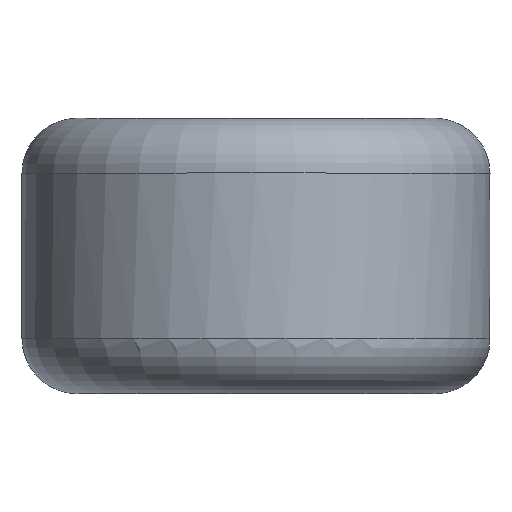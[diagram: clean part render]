
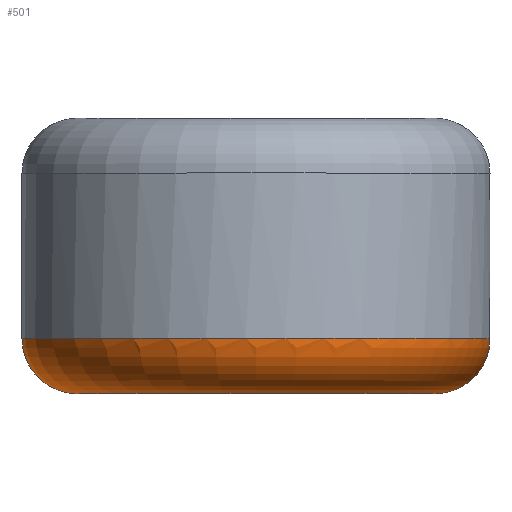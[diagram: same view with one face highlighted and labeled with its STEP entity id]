
A CAD part, top view. The second image highlights one B-rep face of the part: STEP entity #501.
In plain terms, the highlighted toroidal (fillet/blend) face has major radius 3.25 mm and minor radius 1 mm.
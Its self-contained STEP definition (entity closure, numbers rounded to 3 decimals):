
#82=FACE_OUTER_BOUND('',#112,.T.);
#112=EDGE_LOOP('',(#413,#414,#415,#416,#417,#418,#419,#420));
#151=CIRCLE('',#570,3.25);
#152=CIRCLE('',#571,1.);
#153=CIRCLE('',#572,4.25);
#154=CIRCLE('',#573,4.25);
#155=CIRCLE('',#574,4.25);
#156=CIRCLE('',#575,3.25);
#191=B_SPLINE_CURVE_WITH_KNOTS('',3,(#1915,#1916,#1917,#1918,#1919,#1920,
#1921,#1922,#1923,#1924,#1925),.UNSPECIFIED.,.F.,.F.,(4,1,1,1,1,1,2,4),
(-0.098,-0.044,-0.026,-0.017,
-0.013,-0.01,-0.008,0.),
 .UNSPECIFIED.);
#225=VERTEX_POINT('',#1661);
#231=VERTEX_POINT('',#1801);
#235=VERTEX_POINT('',#2220);
#236=VERTEX_POINT('',#2221);
#237=VERTEX_POINT('',#2223);
#238=VERTEX_POINT('',#2226);
#296=EDGE_CURVE('',#225,#231,#191,.T.);
#301=EDGE_CURVE('',#235,#236,#151,.T.);
#302=EDGE_CURVE('',#236,#237,#152,.T.);
#303=EDGE_CURVE('',#237,#231,#153,.T.);
#304=EDGE_CURVE('',#225,#238,#154,.T.);
#305=EDGE_CURVE('',#238,#237,#155,.T.);
#306=EDGE_CURVE('',#236,#235,#156,.T.);
#413=ORIENTED_EDGE('',*,*,#301,.T.);
#414=ORIENTED_EDGE('',*,*,#302,.T.);
#415=ORIENTED_EDGE('',*,*,#303,.T.);
#416=ORIENTED_EDGE('',*,*,#296,.F.);
#417=ORIENTED_EDGE('',*,*,#304,.T.);
#418=ORIENTED_EDGE('',*,*,#305,.T.);
#419=ORIENTED_EDGE('',*,*,#302,.F.);
#420=ORIENTED_EDGE('',*,*,#306,.T.);
#483=TOROIDAL_SURFACE('',#569,3.25,1.);
#501=ADVANCED_FACE('',(#82),#483,.T.);
#569=AXIS2_PLACEMENT_3D('',#2219,#674,#675);
#570=AXIS2_PLACEMENT_3D('',#2222,#676,#677);
#571=AXIS2_PLACEMENT_3D('',#2224,#678,#679);
#572=AXIS2_PLACEMENT_3D('',#2225,#680,#681);
#573=AXIS2_PLACEMENT_3D('',#2227,#682,#683);
#574=AXIS2_PLACEMENT_3D('',#2228,#684,#685);
#575=AXIS2_PLACEMENT_3D('',#2229,#686,#687);
#674=DIRECTION('center_axis',(0.,-1.,0.));
#675=DIRECTION('ref_axis',(0.,0.,1.));
#676=DIRECTION('center_axis',(0.,1.,0.));
#677=DIRECTION('ref_axis',(-1.,0.,0.));
#678=DIRECTION('center_axis',(1.,0.,0.));
#679=DIRECTION('ref_axis',(0.,0.,-1.));
#680=DIRECTION('center_axis',(0.,-1.,0.));
#681=DIRECTION('ref_axis',(-1.,0.,0.));
#682=DIRECTION('center_axis',(0.,-1.,0.));
#683=DIRECTION('ref_axis',(-1.,0.,0.));
#684=DIRECTION('center_axis',(0.,-1.,0.));
#685=DIRECTION('ref_axis',(-1.,0.,0.));
#686=DIRECTION('center_axis',(0.,1.,0.));
#687=DIRECTION('ref_axis',(-1.,0.,0.));
#1661=CARTESIAN_POINT('',(2.556,-1.5,-3.396));
#1801=CARTESIAN_POINT('',(1.831,-1.5,-3.835));
#1915=CARTESIAN_POINT('Ctrl Pts',(2.556,-1.5,-3.396));
#1916=CARTESIAN_POINT('Ctrl Pts',(2.446,-1.57,-3.478));
#1917=CARTESIAN_POINT('Ctrl Pts',(2.259,-1.616,-3.598));
#1918=CARTESIAN_POINT('Ctrl Pts',(2.046,-1.583,-3.722));
#1919=CARTESIAN_POINT('Ctrl Pts',(1.967,-1.559,-3.766));
#1920=CARTESIAN_POINT('Ctrl Pts',(1.928,-1.545,-3.786));
#1921=CARTESIAN_POINT('Ctrl Pts',(1.906,-1.536,-3.798));
#1922=CARTESIAN_POINT('Ctrl Pts',(1.895,-1.531,-3.804));
#1923=CARTESIAN_POINT('Ctrl Pts',(1.87,-1.52,-3.817));
#1924=CARTESIAN_POINT('Ctrl Pts',(1.85,-1.51,-3.826));
#1925=CARTESIAN_POINT('Ctrl Pts',(1.831,-1.5,-3.835));
#2219=CARTESIAN_POINT('Origin',(0.,-1.5,0.));
#2220=CARTESIAN_POINT('',(3.25,-2.5,0.));
#2221=CARTESIAN_POINT('',(0.,-2.5,-3.25));
#2222=CARTESIAN_POINT('Origin',(0.,-2.5,0.));
#2223=CARTESIAN_POINT('',(0.,-1.5,-4.25));
#2224=CARTESIAN_POINT('Origin',(0.,-1.5,-3.25));
#2225=CARTESIAN_POINT('Origin',(0.,-1.5,0.));
#2226=CARTESIAN_POINT('',(-4.25,-1.5,0.));
#2227=CARTESIAN_POINT('Origin',(0.,-1.5,0.));
#2228=CARTESIAN_POINT('Origin',(0.,-1.5,0.));
#2229=CARTESIAN_POINT('Origin',(0.,-2.5,0.));
